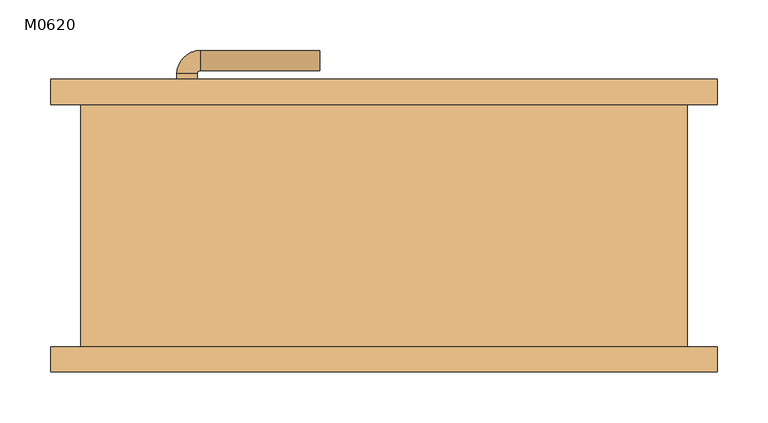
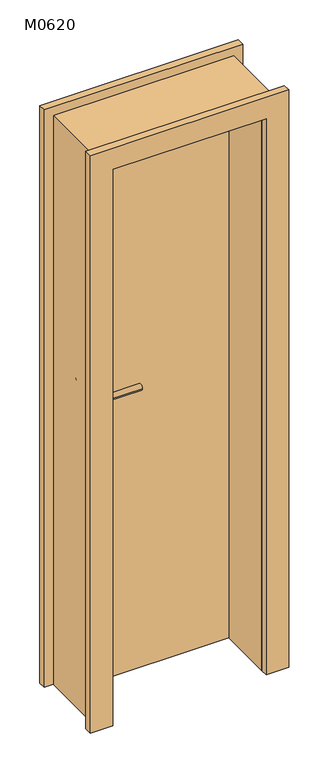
"""IFC4 building model written with IfcOpenShell, lengths in millimetres: door geometry, 单嵌板木门 1 : M0620."""

from ifc_helpers import new_model, si_unit, point, frame, frame_2d, origin, origin_with_axes, place, context, project, spatial, polyline, circle_curve, ellipse_curve, trimmed, segment, composite_curve, outline, extrude, source, transform, mapped, element, save
from ifc_brep_helpers import plane_surface, cylinder_surface, revolved_surface, advanced_brep


def m0620_20a38033(model_context):
    return source(origin(), model_context, "Body", "SolidModel", [
        extrude(outline(composite_curve([segment(trimmed(circle_curve(frame_2d((900.0, -195.0)), 25.0), [point((900.0, -170.0))], [point((900.0, -220.0))], False, "CARTESIAN"), True, "CONTINUOUS"), segment(trimmed(circle_curve(frame_2d((900.0, -195.0)), 25.0), [point((900.0, -220.0))], [point((900.0, -170.0))], False, "CARTESIAN"), True, "CONTINUOUS")], self_intersect=False)), frame((0.0, 60.0, 0.0), z_axis=(0.0, 1.0, 0.0), x_axis=(0.0, 0.0, 1.0)), (0.0, 0.0, 1.0), 10.0),
        extrude(outline(composite_curve([segment(trimmed(circle_curve(frame_2d((900.0, -195.0)), 25.0), [point((900.0, -170.0))], [point((900.0, -220.0))], False, "CARTESIAN"), True, "CONTINUOUS"), segment(trimmed(circle_curve(frame_2d((900.0, -195.0)), 25.0), [point((900.0, -220.0))], [point((900.0, -170.0))], False, "CARTESIAN"), True, "CONTINUOUS")], self_intersect=False)), frame((0.0, 120.0, 0.0), z_axis=(0.0, 1.0, 0.0), x_axis=(0.0, 0.0, 1.0)), (0.0, 0.0, 1.0), 10.0),
        advanced_brep(
        [(-205.0, 60.0, 1020.0), (-185.0, 60.0, 1020.0), (-185.0, 39.386645, 1020.0), (-205.0, 39.386645, 1020.0), (-63.419036, 16.419036, 1020.0), (-63.419036, 36.419036, 1020.0), (-182.0323911, 36.419036, 1020.0), (-182.0323911, 16.419036, 1020.0)],
        [
            (0, 1, circle_curve(frame((-195.0, 60.0, 1020.0), z_axis=(0.0, 1.0, 0.0), x_axis=(1.0, 0.0, 0.0)), 10.0)),
            (1, 0, circle_curve(frame((-195.0, 60.0, 1020.0), z_axis=(0.0, 1.0, 0.0), x_axis=(1.0, 0.0, 0.0)), 10.0)),
            (1, 2),
            (2, 3, circle_curve(frame((-195.0, 39.386645, 1020.0), z_axis=(0.0, 1.0, 0.0), x_axis=(1.0, 0.0, 0.0)), 10.0)),
            (3, 0),
            (3, 2, circle_curve(frame((-195.0, 39.386645, 1020.0), z_axis=(0.0, 1.0, 0.0), x_axis=(1.0, 0.0, 0.0)), 10.0)),
            (4, 5, circle_curve(frame((-63.419036, 26.419036, 1020.0), z_axis=(1.0, 0.0, 0.0), x_axis=(0.0, 1.0, 0.0)), 10.0)),
            (5, 4, circle_curve(frame((-63.419036, 26.419036, 1020.0), z_axis=(1.0, 0.0, 0.0), x_axis=(0.0, 1.0, 0.0)), 10.0)),
            (6, 2, circle_curve(frame((-182.0323911, 39.386645, 1020.0), z_axis=(0.0, 0.0, -1.0), x_axis=(-1.0, 0.0, 0.0)), 2.9676089)),
            (3, 7, circle_curve(frame((-182.0323911, 39.386645, 1020.0), z_axis=(0.0, 0.0, 1.0), x_axis=(-1.0, 0.0, 0.0)), 22.9676089)),
            (7, 6, circle_curve(frame((-182.0323911, 26.419036, 1020.0), z_axis=(-1.0, 0.0, 0.0), x_axis=(0.0, 1.0, 0.0)), 10.0)),
            (6, 7, circle_curve(frame((-182.0323911, 26.419036, 1020.0), z_axis=(-1.0, 0.0, 0.0), x_axis=(0.0, 1.0, 0.0)), 10.0)),
            (7, 4),
            (5, 6),
        ],
        [
            plane_surface(frame((-195.0, 60.0, 900.0), z_axis=(0.0, 1.0, 0.0), x_axis=(0.0, 0.0, 1.0))),
            cylinder_surface(frame((-195.0, 60.0, 1020.0), z_axis=(0.0, 1.0, 0.0), x_axis=(1.0, 0.0, 0.0)), 10.0),
            plane_surface(frame((-63.419036, 26.419036, 900.0), z_axis=(1.0, 0.0, 0.0), x_axis=(0.0, 0.0, 1.0))),
            revolved_surface(trimmed(ellipse_curve(frame((-195.0, 39.386645, 1020.0), z_axis=(0.0, 1.0, 0.0), x_axis=(1.0, 0.0, 0.0)), 10.0, 10.0), [point((-205.0, 39.386645, 1020.0))], [point((-185.0, 39.386645, 1020.0))], True, "CARTESIAN"), (-182.0323911, 39.386645, 900.0), (0.0, 0.0, 1.0)),
            revolved_surface(trimmed(ellipse_curve(frame((-195.0, 39.386645, 1020.0), z_axis=(0.0, 1.0, 0.0), x_axis=(1.0, 0.0, 0.0)), 10.0, 10.0), [point((-185.0, 39.386645, 1020.0))], [point((-205.0, 39.386645, 1020.0))], True, "CARTESIAN"), (-182.0323911, 39.386645, 900.0), (0.0, 0.0, 1.0)),
            cylinder_surface(frame((-182.0323911, 26.419036, 1020.0), z_axis=(-1.0, 0.0, 0.0), x_axis=(0.0, 1.0, 0.0)), 10.0),
        ],
        [
            (0, [[1, 2]]),
            (1, [[-2, 3, 4, 5]]),
            (1, [[-1, -5, 6, -3]]),
            (2, [[7, 8]]),
            (3, [[9, -6, 10, 11]]),
            (4, [[-10, -4, -9, 12]]),
            (5, [[-11, 13, -8, 14]]),
            (5, [[-12, -14, -7, -13]]),
        ],
    ),
        extrude(outline(composite_curve([segment(trimmed(circle_curve(frame_2d((1020.0, -195.0)), 25.0), [point((1020.0, -170.0))], [point((1020.0, -220.0))], False, "CARTESIAN"), True, "CONTINUOUS"), segment(trimmed(circle_curve(frame_2d((1020.0, -195.0)), 25.0), [point((1020.0, -220.0))], [point((1020.0, -170.0))], False, "CARTESIAN"), True, "CONTINUOUS")], self_intersect=False)), frame((0.0, 60.0, 0.0), z_axis=(0.0, 1.0, 0.0), x_axis=(0.0, 0.0, 1.0)), (0.0, 0.0, 1.0), 10.0),
        advanced_brep(
        [(-185.0, 130.0, 1020.0), (-205.0, 130.0, 1020.0), (-185.0, 150.6133551, 1020.0), (-205.0, 150.6133551, 1020.0), (-63.419036, 153.580964, 1020.0), (-63.419036, 173.580964, 1020.0), (-182.0323911, 173.580964, 1020.0), (-182.0323911, 153.580964, 1020.0)],
        [
            (0, 1, circle_curve(frame((-195.0, 130.0, 1020.0), z_axis=(0.0, -1.0, 0.0), x_axis=(-1.0, 0.0, 0.0)), 10.0)),
            (1, 0, circle_curve(frame((-195.0, 130.0, 1020.0), z_axis=(0.0, -1.0, 0.0), x_axis=(-1.0, 0.0, 0.0)), 10.0)),
            (0, 2),
            (2, 3, circle_curve(frame((-195.0, 150.6133551, 1020.0), z_axis=(0.0, -1.0, 0.0), x_axis=(-1.0, 0.0, 0.0)), 10.0)),
            (3, 1),
            (3, 2, circle_curve(frame((-195.0, 150.6133551, 1020.0), z_axis=(0.0, -1.0, 0.0), x_axis=(-1.0, 0.0, 0.0)), 10.0)),
            (4, 5, circle_curve(frame((-63.419036, 163.580964, 1020.0), z_axis=(1.0, 0.0, 0.0), x_axis=(0.0, 1.0, 0.0)), 10.0)),
            (5, 4, circle_curve(frame((-63.419036, 163.580964, 1020.0), z_axis=(1.0, 0.0, 0.0), x_axis=(0.0, 1.0, 0.0)), 10.0)),
            (6, 3, circle_curve(frame((-182.0323911, 150.6133551, 1020.0), z_axis=(0.0, 0.0, 1.0), x_axis=(-1.0, 0.0, 0.0)), 22.9676089)),
            (2, 7, circle_curve(frame((-182.0323911, 150.6133551, 1020.0), z_axis=(0.0, 0.0, -1.0), x_axis=(-1.0, 0.0, 0.0)), 2.9676089)),
            (7, 6, circle_curve(frame((-182.0323911, 163.580964, 1020.0), z_axis=(-1.0, 0.0, 0.0), x_axis=(0.0, 1.0, 0.0)), 10.0)),
            (6, 7, circle_curve(frame((-182.0323911, 163.580964, 1020.0), z_axis=(-1.0, 0.0, 0.0), x_axis=(0.0, 1.0, 0.0)), 10.0)),
            (7, 4),
            (5, 6),
        ],
        [
            plane_surface(frame((-195.0, 130.0, 900.0), z_axis=(0.0, -1.0, 0.0), x_axis=(0.0, 0.0, 1.0))),
            cylinder_surface(frame((-195.0, 130.0, 1020.0), z_axis=(0.0, -1.0, 0.0), x_axis=(-1.0, 0.0, 0.0)), 10.0),
            plane_surface(frame((-63.419036, 163.580964, 900.0), z_axis=(1.0, 0.0, 0.0), x_axis=(0.0, 0.0, 1.0))),
            revolved_surface(trimmed(ellipse_curve(frame((-195.0, 150.6133551, 1020.0), z_axis=(0.0, -1.0, 0.0), x_axis=(-1.0, 0.0, 0.0)), 10.0, 10.0), [point((-185.0, 150.6133551, 1020.0))], [point((-205.0, 150.6133551, 1020.0))], True, "CARTESIAN"), (-182.0323911, 150.6133551, 900.0), (0.0, 0.0, -1.0)),
            revolved_surface(trimmed(ellipse_curve(frame((-195.0, 150.6133551, 1020.0), z_axis=(0.0, -1.0, 0.0), x_axis=(-1.0, 0.0, 0.0)), 10.0, 10.0), [point((-205.0, 150.6133551, 1020.0))], [point((-185.0, 150.6133551, 1020.0))], True, "CARTESIAN"), (-182.0323911, 150.6133551, 900.0), (0.0, 0.0, -1.0)),
            cylinder_surface(frame((-182.0323911, 163.580964, 1020.0), z_axis=(-1.0, 0.0, 0.0), x_axis=(0.0, 1.0, 0.0)), 10.0),
        ],
        [
            (0, [[1, 2]]),
            (1, [[-1, 3, 4, 5]]),
            (1, [[-2, -5, 6, -3]]),
            (2, [[7, 8]]),
            (3, [[9, -4, 10, 11]]),
            (4, [[-10, -6, -9, 12]]),
            (5, [[-11, 13, -8, 14]]),
            (5, [[-12, -14, -7, -13]]),
        ],
    ),
        extrude(outline(composite_curve([segment(trimmed(circle_curve(frame_2d((1020.0, -195.0)), 25.0), [point((1020.0, -170.0))], [point((1020.0, -220.0))], False, "CARTESIAN"), True, "CONTINUOUS"), segment(trimmed(circle_curve(frame_2d((1020.0, -195.0)), 25.0), [point((1020.0, -220.0))], [point((1020.0, -170.0))], False, "CARTESIAN"), True, "CONTINUOUS")], self_intersect=False)), frame((0.0, 120.0, 0.0), z_axis=(0.0, 1.0, 0.0), x_axis=(0.0, 0.0, 1.0)), (0.0, 0.0, 1.0), 10.0),
        extrude(outline(polyline([(0.0, 330.0), (2030.0, 330.0), (2030.0, -330.0), (0.0, -330.0), (0.0, -255.0), (1955.0, -255.0), (1955.0, 255.0), (0.0, 255.0), (0.0, 330.0)])), frame((0.0, 120.0, 0.0), z_axis=(0.0, 1.0, 0.0), x_axis=(0.0, 0.0, 1.0)), (0.0, 0.0, 1.0), 25.0),
        extrude(outline(polyline([(2030.0, 330.0), (2030.0, -330.0), (0.0, -330.0), (0.0, -255.0), (1955.0, -255.0), (1955.0, 255.0), (0.0, 255.0), (0.0, 330.0), (2030.0, 330.0)])), frame((0.0, -145.0, 0.0), z_axis=(0.0, 1.0, 0.0), x_axis=(0.0, 0.0, 1.0)), (0.0, 0.0, 1.0), 25.0),
        extrude(outline(polyline([(255.0, 70.0), (-255.0, 70.0), (-255.0, 120.0), (255.0, 120.0), (255.0, 70.0)])), origin_with_axes(), (0.0, 0.0, 1.0), 1955.0),
        extrude(outline(polyline([(2000.0, -300.0), (0.0, -300.0), (0.0, -255.0), (1955.0, -255.0), (1955.0, 255.0), (0.0, 255.0), (0.0, 300.0), (2000.0, 300.0), (2000.0, -300.0)])), frame((0.0, -120.0, 0.0), z_axis=(0.0, 1.0, 0.0), x_axis=(0.0, 0.0, 1.0)), (0.0, 0.0, 1.0), 240.0),
    ])


if __name__ == "__main__":
    model = new_model("IFC4")
    model_context = context("Model", 3, world=origin())
    ifc_project = project(units=[si_unit("LENGTHUNIT", "METRE", prefix="MILLI")], contexts=[model_context])
    site = spatial("IfcSite", under=ifc_project)
    building = spatial("IfcBuilding", under=site)
    placement = place(None, origin())
    m0620_shape = m0620_20a38033(model_context)
    element("IfcDoor", 1, ObjectType="单嵌板木门 1 : M0620", at=placement, inside=building, context=model_context, shape_type="MappedRepresentation", body=[
        mapped(m0620_shape, transform((0.0, 0.0, 0.0), x_axis=(1.0, 0.0, 0.0), y_axis=(0.0, 1.0, 0.0), z_axis=(0.0, 0.0, 1.0))),
    ])
    save(model, "model.ifc")
